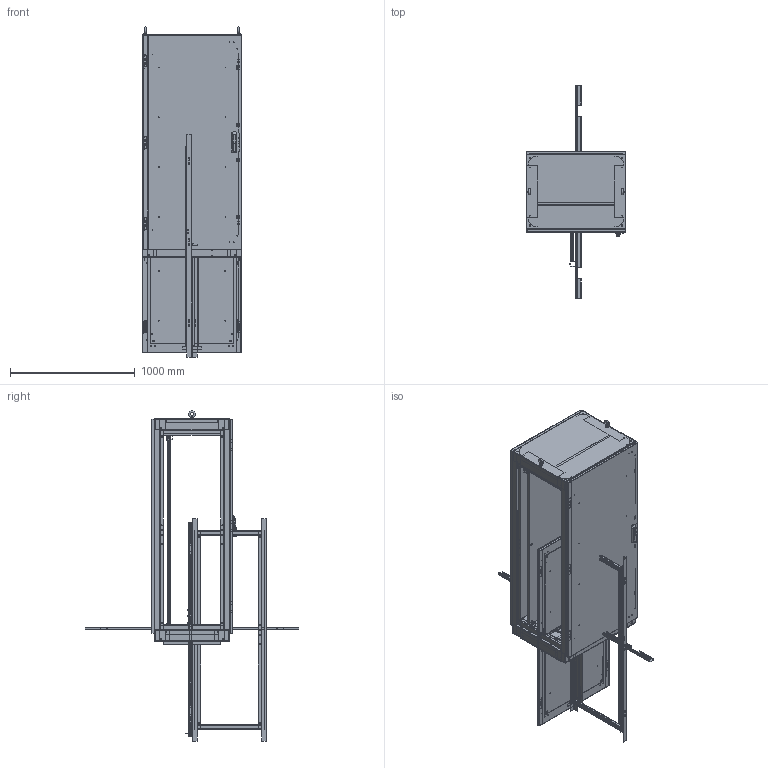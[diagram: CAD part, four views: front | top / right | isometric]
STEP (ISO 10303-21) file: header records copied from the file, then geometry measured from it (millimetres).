
FILE_DESCRIPTION( ( 'Unknown' ), '1' );
FILE_NAME( 'Q:/IME/WEB DRAWINGS/IME1686.stp', 'Unknown', ( 'Unknown' ), ( 'Unknown' ), 'XStep 1.0', 'Unknown', ' ' );
FILE_SCHEMA( ( 'CONFIG_CONTROL_DESIGN' ) );
Length unit declared in the file: millimetre
Products named in the file (97): Assem1; Assem2; Assem3; Assem4; Assem5; Assem6; Assem7; Assem8; Assem9; Assem10; Assem11; Assem12; Assem13; Assem14; Assem15; Assem16; Assem17; Assem18; 1; 2; 3; 4; 5; 6; 7; 8; 9; 10; 11; 12; 13; 14; 15; 16; 17; 18; 19; 20; 21; 22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
Bounding box: 800.42 x 1714.7 x 2650.44 mm (x, y, z)
Volume: 46446900.1 mm3; surface area: 50162102.4 mm2
Topology: 374 solids, 380 shells, 9380 faces, 23974 edges, 15663 vertices
Faces by surface type: plane 5916, cylinder 2743, torus 304, cone 254, bspline 163
Full cylindrical faces by diameter (mm): 2.464 x12, 3.175 x3, 3.454 x16, 3.607 x12, 4.166 x32, 4.216 x12, 4.318 x12, 4.826 x16, 4.851 x8, 4.928 x12, 5.08 x24, 5.156 x12, 5.537 x86, 5.893 x8, 5.994 x14, 6 x40, 6.35 x46, 6.411 x15, 7.137 x16, 7.366 x12, 7.62 x18, 7.938 x76, 8.001 x24, 8.026 x8, 9.525 x18, 9.804 x23, 10.999 x8, 11.113 x12, 11.506 x28, 11.684 x15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
Entity records: 74695 total; most frequent: CARTESIAN_POINT 17084, DIRECTION 11087, ORIENTED_EDGE 10580, EDGE_CURVE 5290, AXIS2_PLACEMENT_3D 3729, LINE 3629, VECTOR 3629, VERTEX_POINT 3588
